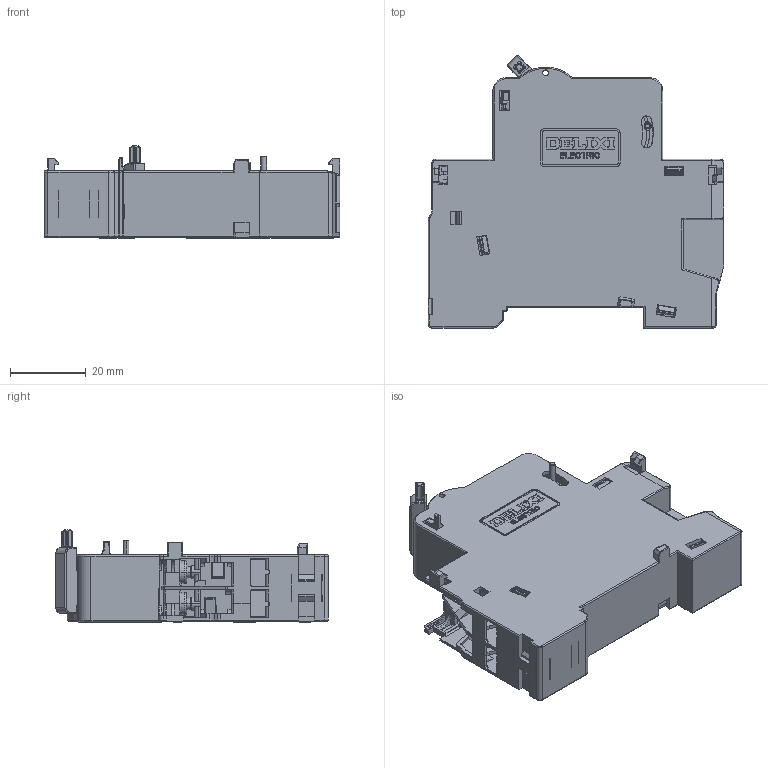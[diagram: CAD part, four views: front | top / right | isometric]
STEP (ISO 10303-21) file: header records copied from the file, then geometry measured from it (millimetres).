
FILE_DESCRIPTION((''),'2;1');
FILE_NAME('2297008000_SW0001','2023-11-07T',('dufeng.zhai'),(''),'PRO/ENGINEER BY PARAMETRIC TECHNOLOGY CORPORATION, 2015440','PRO/ENGINEER BY PARAMETRIC TECHNOLOGY CORPORATION, 2015440','');
FILE_SCHEMA(('CONFIG_CONTROL_DESIGN'));
Products named in the file (1): 2297008000_SW0001
Bounding box: 78 x 71.76 x 24.3 mm (x, y, z)
Volume: 57088.5 mm3; surface area: 32683.4 mm2
Topology: 1 solids, 1 shells, 2515 faces, 7072 edges, 4505 vertices
Faces by surface type: plane 1570, cylinder 644, cone 86, torus 62, bspline 57, sphere 53, extrusion 43
Entity records: 86291 total; most frequent: CARTESIAN_POINT 21458, ORIENTED_EDGE 14144, DIRECTION 12781, EDGE_CURVE 7072, VECTOR 5225, LINE 5182, VERTEX_POINT 4509, AXIS2_PLACEMENT_3D 3778
